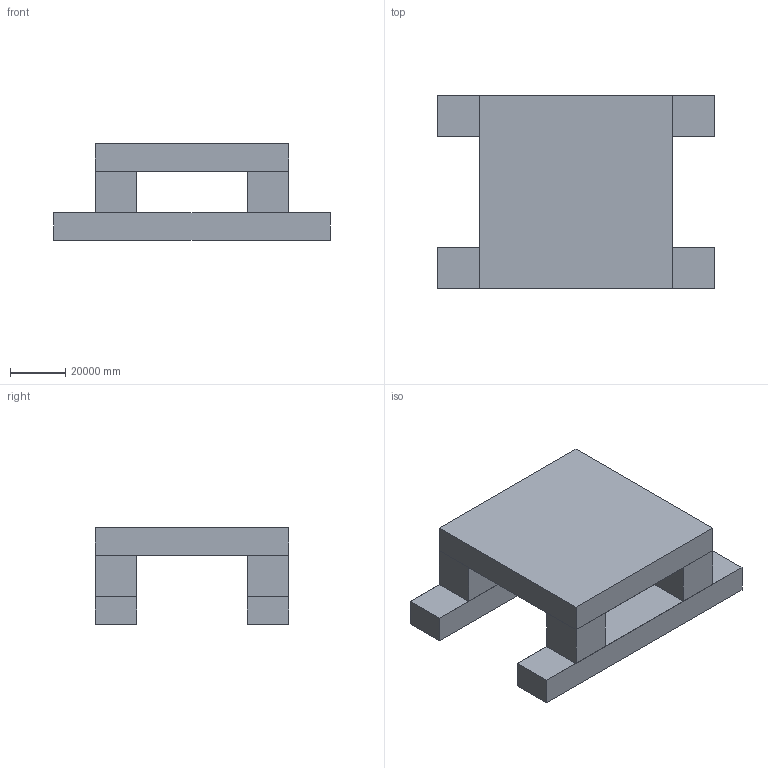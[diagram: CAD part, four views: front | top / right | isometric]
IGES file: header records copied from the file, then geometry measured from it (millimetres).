
Global section: file name: D:\univ\Stability_RD_Committee\Website\Benchmark_data\GustoMSC\WIP\R02\UNITS-data-sheet-jackup-and-semisub-Rev-2\Geometry\SemiSub_HULL.igs; native system: Rhinoceros ( Dec 12 2013 ); preprocessor: Trout Lake IGES 012 Dec 12 2013; date: 140212.193551; units: metre
Bounding box: 100000 x 70000 x 35000 mm (x, y, z)
Surface area: 25000000000 mm2 (no closed solid volume)
Topology: 0 solids, 0 shells, 38 faces, 160 edges, 160 vertices
Faces by surface type: bspline 38
